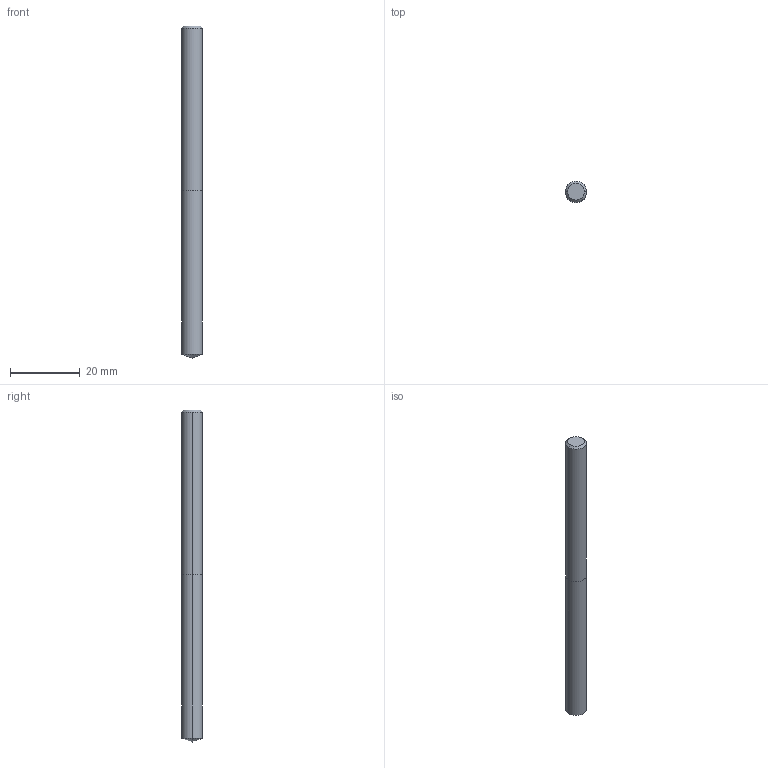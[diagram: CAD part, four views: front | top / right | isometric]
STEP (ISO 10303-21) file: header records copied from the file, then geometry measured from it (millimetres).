
FILE_DESCRIPTION (( 'STEP AP214' ), '1' );
FILE_NAME ('754.060.00_3D-model.step', '2023-08-21T11:55:54', ( '' ), ( '' ), 'SwSTEP 2.0', 'SolidWorks 2020', '' );
FILE_SCHEMA (( 'AUTOMOTIVE_DESIGN' ));
Length unit declared in the file: millimetre
Products named in the file (3): 754.060.00_3D-model; CUT-3D^Baugr81; NOCUT-3D^Baugr81
Assembly tree (2 placements, depth 2):
  754.060.00_3D-model
    CUT-3D^Baugr81
    NOCUT-3D^Baugr81
Bounding box: 6 x 6 x 95 mm (x, y, z)
Volume: 2662.3 mm3; surface area: 1878 mm2
Topology: 2 solids, 2 shells, 11 faces, 20 edges, 11 vertices
Faces by surface type: cone 4, cylinder 4, plane 3
Entity records: 380 total; most frequent: DIRECTION 66, CARTESIAN_POINT 48, ORIENTED_EDGE 36, AXIS2_PLACEMENT_3D 29, EDGE_CURVE 18, FACE_OUTER_BOUND 11, EDGE_LOOP 11, ADVANCED_FACE 11
